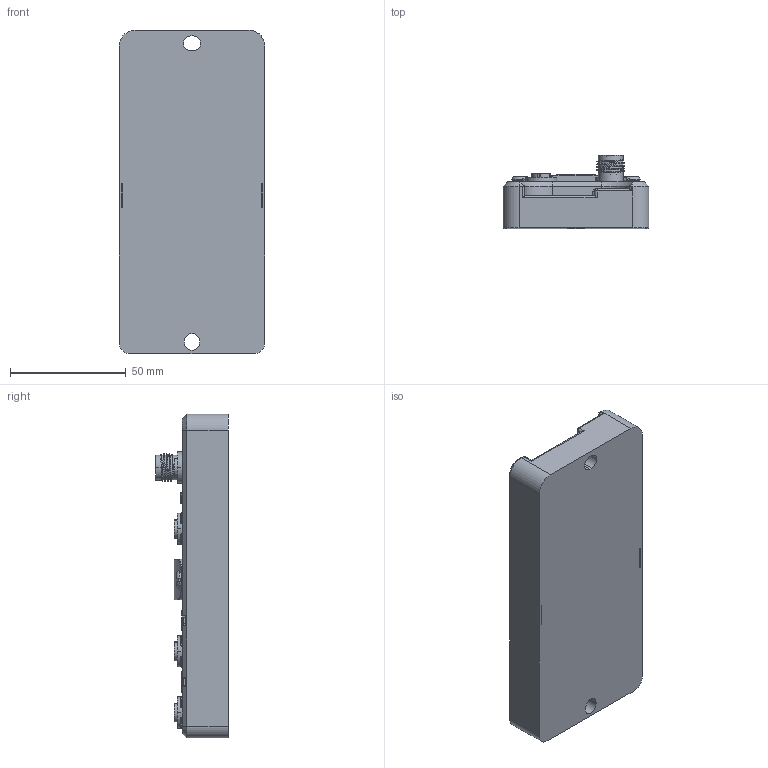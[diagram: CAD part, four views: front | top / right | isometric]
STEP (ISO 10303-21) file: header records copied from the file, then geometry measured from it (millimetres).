
FILE_DESCRIPTION((''),'2;1');
FILE_NAME('CM-1229_ASM_ASM_ASM','2022-03-01T',('Administrator'),(''),'PRO/ENGINEER BY PARAMETRIC TECHNOLOGY CORPORATION, 2008380','PRO/ENGINEER BY PARAMETRIC TECHNOLOGY CORPORATION, 2008380','');
FILE_SCHEMA(('CONFIG_CONTROL_DESIGN'));
Length unit declared in the file: millimetre
Products named in the file (22): MANIFOLD_SOLID_BREP_3078_1_8_1_; MANIFOLD_SOLID_BREP_3131_2_1_1_; RO-20200701_ASM_20_ASM_2_ASM_2__ASM; GUIJIAOTIAO_3_1_2_2_1_1_1_2_2; RO-20200701_ASM_ASM_10_ASM_2_AS_ASM; 1_ASM_37_ASM_9_ASM_2_ASM_1_ASM__ASM; BMQ_2_1_1_1_2_2_2; RO-0715-1_ASM_58_ASM_2_ASM_1_AS_ASM; BIANMAQI-2_1_1_1_2_2_1; TX-2_1_2_2_1; TX-5_2_2_2_1; DY-3_2_2_2_1; RO-0729-V1_1__ASM_24_ASM_1_ASM__ASM; RO-20210417_ASM_ASM_ASM_2_ASM_1_ASM; RO-20210419_ASM_ASM_2_ASM_1_ASM_ASM; LED-LENS_6_1; LED-LENS-2_5_1; IO_-20210422_ASM_10_ASM_1_ASM_A_ASM; IO_-20210727_ASM_8_ASM_ASM_ASM_ASM; CM-1229_ASM_ASM_ASM_ASM; OUT-PANEL_10_1; CM-1229_ASM_ASM_ASM
Assembly tree (39 placements, depth 12):
  CM-1229_ASM_ASM_ASM
    CM-1229_ASM_ASM_ASM_ASM
      IO_-20210727_ASM_8_ASM_ASM_ASM_ASM
        IO_-20210422_ASM_10_ASM_1_ASM_A_ASM
          RO-20210419_ASM_ASM_2_ASM_1_ASM_ASM
            RO-20210417_ASM_ASM_ASM_2_ASM_1_ASM
              RO-0729-V1_1__ASM_24_ASM_1_ASM__ASM
                RO-0715-1_ASM_58_ASM_2_ASM_1_AS_ASM
                  1_ASM_37_ASM_9_ASM_2_ASM_1_ASM__ASM
                  BMQ_2_1_1_1_2_2_2  x3
                BIANMAQI-2_1_1_1_2_2_1  x4
                TX-2_1_2_2_1  x3
                TX-5_2_2_2_1  x4
                DY-3_2_2_2_1
          LED-LENS_6_1  x7
          LED-LENS-2_5_1
        LED-LENS-2_5_1
    OUT-PANEL_10_1
Bounding box: 63 x 31.4 x 140 mm (x, y, z)
Volume: 178602.1 mm3; surface area: 52246.4 mm2
Topology: 29 solids, 29 shells, 2641 faces, 6898 edges, 4518 vertices
Faces by surface type: plane 1451, cylinder 801, cone 186, bspline 136, torus 49, extrusion 17, sphere 1
Entity records: 47105 total; most frequent: CARTESIAN_POINT 14155, ORIENTED_EDGE 6874, DIRECTION 6674, EDGE_CURVE 3437, VERTEX_POINT 2262, AXIS2_PLACEMENT_3D 2238, VECTOR 2198, LINE 2181
